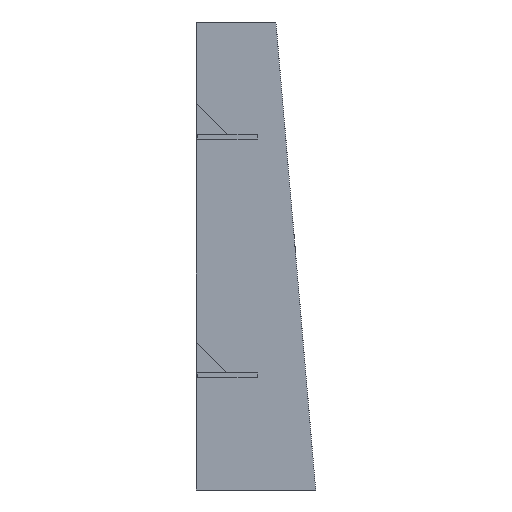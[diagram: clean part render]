
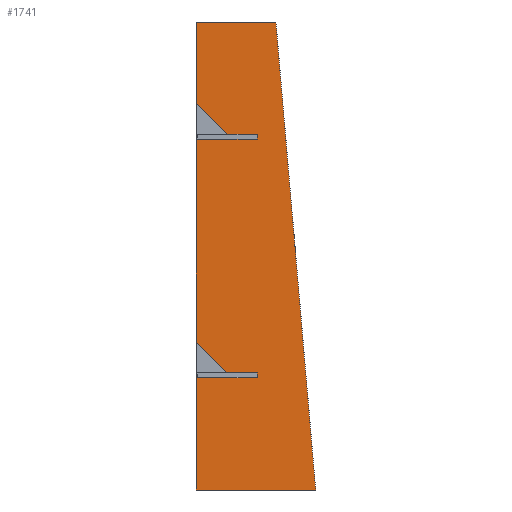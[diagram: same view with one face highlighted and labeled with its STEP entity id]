
A CAD part, left-side view. The second image highlights one B-rep face of the part: STEP entity #1741.
In plain terms, the highlighted planar face has unit normal (-1, 0, 0) as drawn and (0, 0, 1) by its records, which use the part's own axes.
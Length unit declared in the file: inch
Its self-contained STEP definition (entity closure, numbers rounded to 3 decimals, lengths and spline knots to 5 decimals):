
#117=FACE_OUTER_BOUND('',#205,.T.);
#205=EDGE_LOOP('',(#1455,#1456,#1457,#1458,#1459,#1460,#1461,#1462,#1463,
#1464,#1465,#1466,#1467,#1468,#1469,#1470,#1471,#1472));
#390=LINE('',#2685,#630);
#392=LINE('',#2690,#632);
#394=LINE('',#2695,#634);
#398=LINE('',#2703,#638);
#401=LINE('',#2709,#641);
#404=LINE('',#2716,#644);
#408=LINE('',#2724,#648);
#411=LINE('',#2729,#651);
#413=LINE('',#2732,#653);
#414=LINE('',#2734,#654);
#415=LINE('',#2736,#655);
#416=LINE('',#2738,#656);
#417=LINE('',#2740,#657);
#418=LINE('',#2742,#658);
#419=LINE('',#2744,#659);
#420=LINE('',#2746,#660);
#421=LINE('',#2748,#661);
#422=LINE('',#2749,#662);
#630=VECTOR('',#2197,0.3937);
#632=VECTOR('',#2201,0.3937);
#634=VECTOR('',#2205,0.3937);
#638=VECTOR('',#2211,0.3937);
#641=VECTOR('',#2216,0.3937);
#644=VECTOR('',#2221,0.3937);
#648=VECTOR('',#2227,0.3937);
#651=VECTOR('',#2232,0.3937);
#653=VECTOR('',#2236,0.3937);
#654=VECTOR('',#2237,0.3937);
#655=VECTOR('',#2238,0.3937);
#656=VECTOR('',#2239,0.3937);
#657=VECTOR('',#2240,0.3937);
#658=VECTOR('',#2241,0.3937);
#659=VECTOR('',#2242,0.3937);
#660=VECTOR('',#2243,0.3937);
#661=VECTOR('',#2244,0.3937);
#662=VECTOR('',#2245,0.3937);
#815=VERTEX_POINT('',#2678);
#818=VERTEX_POINT('',#2683);
#820=VERTEX_POINT('',#2689);
#821=VERTEX_POINT('',#2693);
#822=VERTEX_POINT('',#2694);
#825=VERTEX_POINT('',#2702);
#827=VERTEX_POINT('',#2708);
#829=VERTEX_POINT('',#2714);
#830=VERTEX_POINT('',#2715);
#833=VERTEX_POINT('',#2723);
#835=VERTEX_POINT('',#2733);
#836=VERTEX_POINT('',#2735);
#837=VERTEX_POINT('',#2737);
#838=VERTEX_POINT('',#2739);
#839=VERTEX_POINT('',#2741);
#840=VERTEX_POINT('',#2743);
#841=VERTEX_POINT('',#2745);
#842=VERTEX_POINT('',#2747);
#1030=EDGE_CURVE('',#815,#818,#390,.T.);
#1032=EDGE_CURVE('',#820,#815,#392,.T.);
#1034=EDGE_CURVE('',#821,#822,#394,.T.);
#1038=EDGE_CURVE('',#822,#825,#398,.T.);
#1041=EDGE_CURVE('',#825,#827,#401,.T.);
#1044=EDGE_CURVE('',#829,#830,#404,.T.);
#1048=EDGE_CURVE('',#830,#833,#408,.T.);
#1051=EDGE_CURVE('',#833,#821,#411,.T.);
#1053=EDGE_CURVE('',#818,#829,#413,.T.);
#1054=EDGE_CURVE('',#827,#835,#414,.T.);
#1055=EDGE_CURVE('',#835,#836,#415,.T.);
#1056=EDGE_CURVE('',#836,#837,#416,.T.);
#1057=EDGE_CURVE('',#837,#838,#417,.T.);
#1058=EDGE_CURVE('',#838,#839,#418,.T.);
#1059=EDGE_CURVE('',#839,#840,#419,.T.);
#1060=EDGE_CURVE('',#840,#841,#420,.T.);
#1061=EDGE_CURVE('',#841,#842,#421,.T.);
#1062=EDGE_CURVE('',#842,#820,#422,.T.);
#1455=ORIENTED_EDGE('',*,*,#1032,.T.);
#1456=ORIENTED_EDGE('',*,*,#1030,.T.);
#1457=ORIENTED_EDGE('',*,*,#1053,.T.);
#1458=ORIENTED_EDGE('',*,*,#1044,.T.);
#1459=ORIENTED_EDGE('',*,*,#1048,.T.);
#1460=ORIENTED_EDGE('',*,*,#1051,.T.);
#1461=ORIENTED_EDGE('',*,*,#1034,.T.);
#1462=ORIENTED_EDGE('',*,*,#1038,.T.);
#1463=ORIENTED_EDGE('',*,*,#1041,.T.);
#1464=ORIENTED_EDGE('',*,*,#1054,.T.);
#1465=ORIENTED_EDGE('',*,*,#1055,.T.);
#1466=ORIENTED_EDGE('',*,*,#1056,.T.);
#1467=ORIENTED_EDGE('',*,*,#1057,.T.);
#1468=ORIENTED_EDGE('',*,*,#1058,.T.);
#1469=ORIENTED_EDGE('',*,*,#1059,.T.);
#1470=ORIENTED_EDGE('',*,*,#1060,.T.);
#1471=ORIENTED_EDGE('',*,*,#1061,.T.);
#1472=ORIENTED_EDGE('',*,*,#1062,.T.);
#1653=PLANE('',#1888);
#1741=ADVANCED_FACE('',(#117),#1653,.T.);
#1888=AXIS2_PLACEMENT_3D('',#2731,#2234,#2235);
#2197=DIRECTION('',(0.,1.,0.));
#2201=DIRECTION('',(0.996,0.085,0.));
#2205=DIRECTION('',(0.,1.,0.));
#2211=DIRECTION('',(1.,0.,0.));
#2216=DIRECTION('',(0.,1.,0.));
#2221=DIRECTION('',(-0.703,-0.711,0.));
#2227=DIRECTION('',(0.,-1.,0.));
#2232=DIRECTION('',(-1.,0.,0.));
#2234=DIRECTION('center_axis',(0.,0.,1.));
#2235=DIRECTION('ref_axis',(1.,0.,0.));
#2236=DIRECTION('',(-1.,0.,0.));
#2237=DIRECTION('',(-1.,0.,0.));
#2238=DIRECTION('',(-0.703,-0.711,0.));
#2239=DIRECTION('',(0.,-1.,0.));
#2240=DIRECTION('',(-1.,0.,0.));
#2241=DIRECTION('',(0.,1.,0.));
#2242=DIRECTION('',(1.,0.,0.));
#2243=DIRECTION('',(0.,1.,0.));
#2244=DIRECTION('',(-1.,0.,0.));
#2245=DIRECTION('',(0.,-1.,0.));
#2678=CARTESIAN_POINT('',(47.,2.,0.48));
#2683=CARTESIAN_POINT('',(47.,10.,0.48));
#2685=CARTESIAN_POINT('',(47.,0.,0.48));
#2689=CARTESIAN_POINT('',(0.,-2.,0.48));
#2690=CARTESIAN_POINT('',(35.46124,1.01798,0.48));
#2693=CARTESIAN_POINT('',(35.25,4.375,0.48));
#2694=CARTESIAN_POINT('',(35.25,9.375,0.48));
#2695=CARTESIAN_POINT('',(35.25,7.1875,0.48));
#2702=CARTESIAN_POINT('',(35.495,9.375,0.48));
#2703=CARTESIAN_POINT('',(29.4975,9.375,0.48));
#2708=CARTESIAN_POINT('',(35.495,10.,0.48));
#2709=CARTESIAN_POINT('',(35.495,7.5,0.48));
#2714=CARTESIAN_POINT('',(38.8409,10.,0.48));
#2715=CARTESIAN_POINT('',(35.75,6.875,0.48));
#2716=CARTESIAN_POINT('',(32.25238,3.33879,0.48));
#2723=CARTESIAN_POINT('',(35.75,4.375,0.48));
#2724=CARTESIAN_POINT('',(35.75,4.6875,0.48));
#2729=CARTESIAN_POINT('',(29.375,4.375,0.48));
#2731=CARTESIAN_POINT('Origin',(23.5,5.,0.48));
#2732=CARTESIAN_POINT('',(47.,10.,0.48));
#2733=CARTESIAN_POINT('',(14.8409,10.,0.48));
#2734=CARTESIAN_POINT('',(47.,10.,0.48));
#2735=CARTESIAN_POINT('',(11.75,6.875,0.48));
#2736=CARTESIAN_POINT('',(14.18655,9.33843,0.48));
#2737=CARTESIAN_POINT('',(11.75,4.375,0.48));
#2738=CARTESIAN_POINT('',(11.75,4.6875,0.48));
#2739=CARTESIAN_POINT('',(11.25,4.375,0.48));
#2740=CARTESIAN_POINT('',(17.375,4.375,0.48));
#2741=CARTESIAN_POINT('',(11.25,9.375,0.48));
#2742=CARTESIAN_POINT('',(11.25,7.1875,0.48));
#2743=CARTESIAN_POINT('',(11.495,9.375,0.48));
#2744=CARTESIAN_POINT('',(17.4975,9.375,0.48));
#2745=CARTESIAN_POINT('',(11.495,10.,0.48));
#2746=CARTESIAN_POINT('',(11.495,7.5,0.48));
#2747=CARTESIAN_POINT('',(0.,10.,0.48));
#2748=CARTESIAN_POINT('',(47.,10.,0.48));
#2749=CARTESIAN_POINT('',(0.,10.,0.48));
